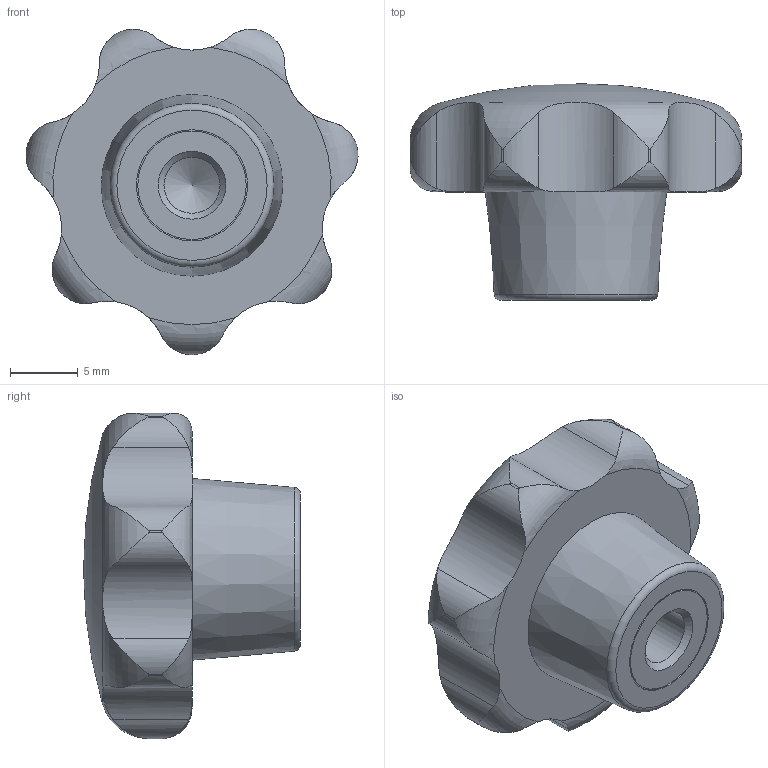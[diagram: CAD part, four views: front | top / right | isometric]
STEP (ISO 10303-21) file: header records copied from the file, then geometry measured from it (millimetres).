
FILE_DESCRIPTION( ( 'STEP AP203' ), '1' );
FILE_NAME( 'C:/Temp/Ganter_Step_05_03_2020/data/2_2/din_6336/din_6336_ku/din_6336_ku_k/Star knob DIN 6336-KU-25-M5-K-NI.stp', '2020-03-05T12:13:38', ( 'License CC BY-ND 4.0' ), ( 'CADENAS' ), ' ', 'PARTsolutions', ' ' );
FILE_SCHEMA( ( 'CONFIG_CONTROL_DESIGN' ) );
Length unit declared in the file: millimetre
Products named in the file (1): _Star knob DIN 6336-KU-25-M5-K-NI
Bounding box: 24.49 x 16 x 24.01 mm (x, y, z)
Volume: 3637.2 mm3; surface area: 1644.3 mm2
Topology: 1 solids, 1 shells, 48 faces, 129 edges, 85 vertices
Faces by surface type: cylinder 31, torus 9, plane 4, cone 3, sphere 1
Full cylindrical faces by diameter (mm): 4.134 x1, 8 x1, 8.2 x1
Entity records: 2086 total; most frequent: CARTESIAN_POINT 953, ORIENTED_EDGE 232, DIRECTION 204, EDGE_CURVE 116, AXIS2_PLACEMENT_3D 88, VERTEX_POINT 83, EDGE_LOOP 59, FACE_OUTER_BOUND 53
